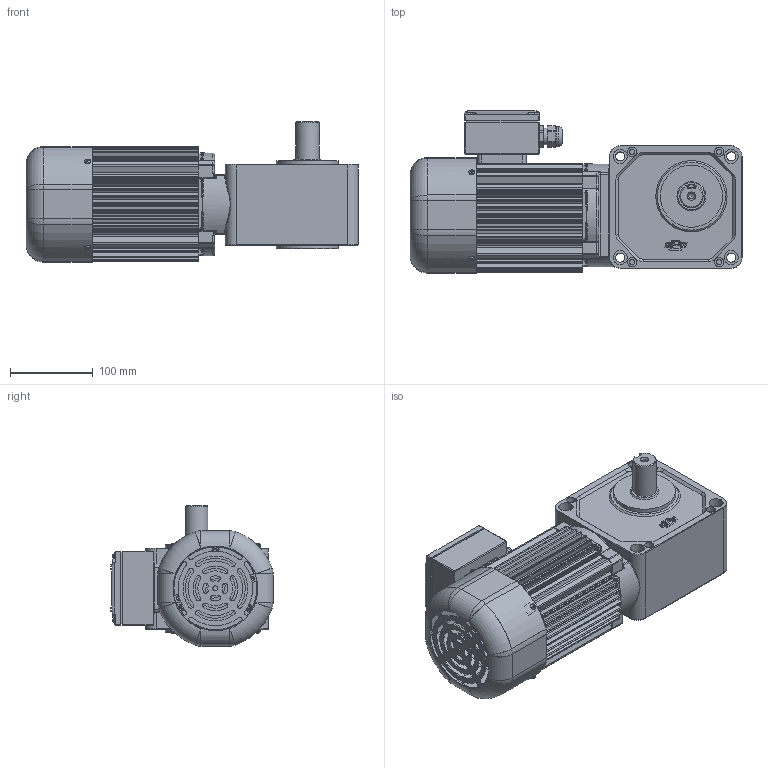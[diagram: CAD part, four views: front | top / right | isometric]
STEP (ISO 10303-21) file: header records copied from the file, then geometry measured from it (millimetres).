
FILE_DESCRIPTION(/* description */ (''),/* implementation_level */ '2;1');
FILE_NAME(/* name */ 'Z:\동력 3D 파일\PCS28L_0.4kW_Brake_3D.stp',/* time_stamp */ '2021-11-09T11:19:04+09:00',/* author */ ('jaebok'),/* organization */ (''),/* preprocessor_version */ 'ST-DEVELOPER v18.1',/* originating_system */ 'Autodesk Inventor 2022',/* authorisation */ '');
FILE_SCHEMA (('AUTOMOTIVE_DESIGN { 1 0 10303 214 3 1 1 }'));
Products named in the file (1): 부품51
Bounding box: 400.5 x 195.7 x 169.2 mm (x, y, z)
Volume: 2453877 mm3; surface area: 648366.9 mm2
Topology: 2 solids, 18 shells, 2026 faces, 5165 edges, 3230 vertices
Faces by surface type: plane 904, cylinder 781, torus 107, cone 107, bspline 99, sphere 28
Full cylindrical faces by diameter (mm): 1.5 x2, 2 x4, 3 x8, 3.242 x5, 3.25 x1, 3.3 x4, 3.6 x4, 3.8 x3, 4 x25, 4.2 x8, 5 x19, 5.8 x2, 5.9 x3, 6 x18, 6.4 x1, 6.5 x10, 6.647 x1, 7 x12, 7.9 x6, 8 x3, 8.5 x1, 8.7 x1, 10 x1, 11 x8, 12.5 x1, 15 x1, 17 x12, 18 x1, 20 x2, 21 x1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
Entity records: 68676 total; most frequent: CARTESIAN_POINT 17435, DIRECTION 10747, ORIENTED_EDGE 10192, EDGE_CURVE 5096, AXIS2_PLACEMENT_3D 4120, VERTEX_POINT 3224, LINE 2507, VECTOR 2507
